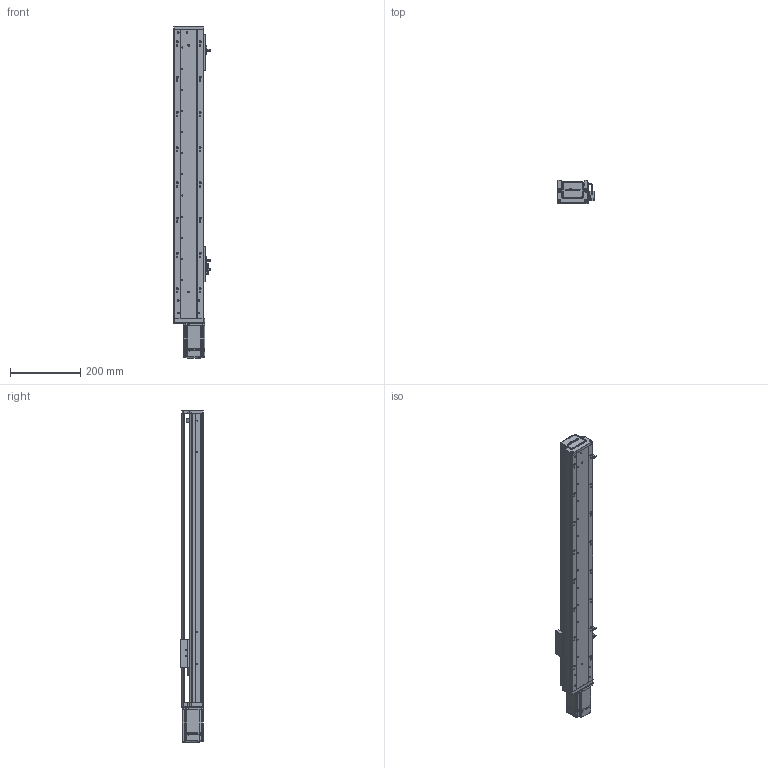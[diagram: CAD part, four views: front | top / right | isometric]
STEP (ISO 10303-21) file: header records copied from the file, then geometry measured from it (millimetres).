
FILE_DESCRIPTION (( 'STEP AP203' ), '1' );
FILE_NAME ('RY80-L1620-300-MK.SLDASM_600.step', '2021-02-20T02:33:25', ( '' ), ( '' ), 'SwSTEP 2.0', 'SolidWorks 2012', '' );
FILE_SCHEMA (( 'CONFIG_CONTROL_DESIGN' ));
Products named in the file (14): RY80-L1620-300-MK.SLDASM_600; RY80前盖板(100W电机 PCD46 M4); RY80綴裔啣; 672嫖萇羲壽假蚾釱; RY80俋离覜茼え; 滅袉蝶18-24; 覜茼ん672; 侂狟200W萇儂; 滅袉蝶18-10; 1; RY80前盖板(200W电机)M4; RY80-300-MK倰第菁釱_600; RY80-300-MK倰第奻裔啣_600; RY80臏賑輸
Assembly tree (16 placements, depth 3):
  RY80-L1620-300-MK.SLDASM_600
    RY80-300-MK倰第菁釱_600
    RY80臏賑輸
    RY80-300-MK倰第奻裔啣_600
    RY80前盖板(200W电机)M4
    侂狟200W萇儂
      1
    滅袉蝶18-10
    672嫖萇羲壽假蚾釱  x2
    覜茼ん672  x3
    RY80俋离覜茼え
    滅袉蝶18-24
    RY80綴裔啣
    RY80前盖板(100W电机 PCD46 M4)
Bounding box: 103.7 x 65 x 942 mm (x, y, z)
Volume: 1632853.2 mm3; surface area: 612145.7 mm2
Topology: 15 solids, 15 shells, 2092 faces, 5788 edges, 3769 vertices
Faces by surface type: plane 1125, cylinder 783, cone 130, bspline 54
Entity records: 66789 total; most frequent: CARTESIAN_POINT 17235, ORIENTED_EDGE 10316, DIRECTION 9555, EDGE_CURVE 5158, VERTEX_POINT 3385, AXIS2_PLACEMENT_3D 3219, LINE 3117, VECTOR 3117
